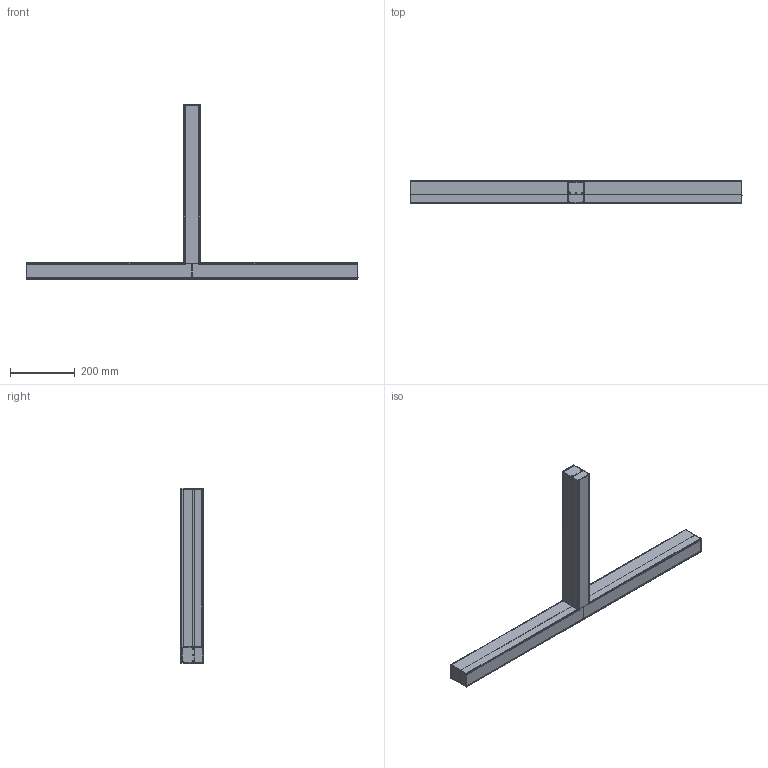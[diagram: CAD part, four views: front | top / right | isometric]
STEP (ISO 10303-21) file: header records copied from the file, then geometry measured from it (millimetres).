
FILE_DESCRIPTION(('STEP AP203'), '1');
FILE_NAME('Ìèêêî Àðì 30Âò', '', ('UNSPECIFIED'), ('UNSPECIFIED'), 'ASCON STEP Converter 1.6', 'ASCON Math Kernel', '');
FILE_SCHEMA(('CONFIG_CONTROL_DESIGN'));
Length unit declared in the file: millimetre
Products named in the file (6): -01
Assembly tree (9 placements, depth 3):
  (unnamed)
    (unnamed)
      (unnamed)  x2
    (unnamed)
      (unnamed)  x2
    -01
      (unnamed)  x2
Bounding box: 1024.3 x 70 x 537.15 mm (x, y, z)
Volume: 660905.8 mm3; surface area: 1019645.6 mm2
Topology: 16 solids, 16 shells, 797 faces, 2263 edges, 1514 vertices
Faces by surface type: cylinder 374, plane 367, bspline 24, cone 18, torus 14
Full cylindrical faces by diameter (mm): 2.9 x6, 6.3 x6, 8 x1, 10 x2, 14 x2
Entity records: 23943 total; most frequent: CARTESIAN_POINT 5108, ORIENTED_EDGE 3980, DIRECTION 3707, EDGE_CURVE 1990, VERTEX_POINT 1338, AXIS2_PLACEMENT_3D 1249, LINE 1209, VECTOR 1209
